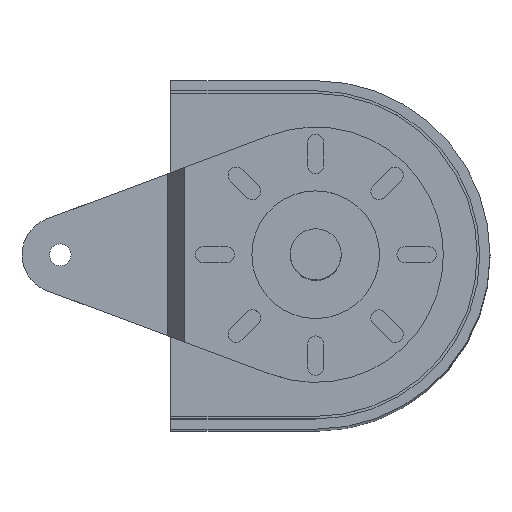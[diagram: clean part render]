
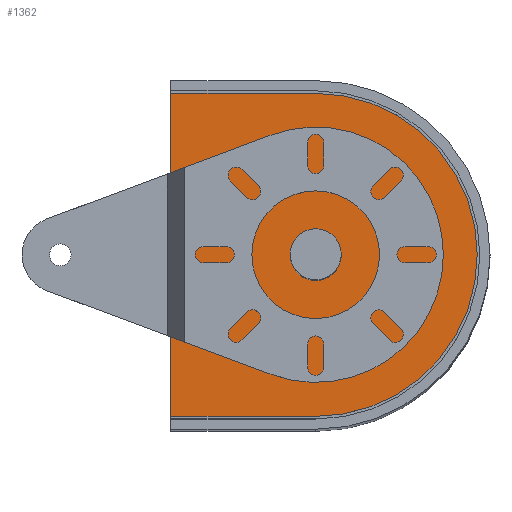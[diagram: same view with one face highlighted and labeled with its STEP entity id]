
A CAD part, top view. The second image highlights one B-rep face of the part: STEP entity #1362.
In plain terms, the highlighted planar face has unit normal (0, 0, 1).
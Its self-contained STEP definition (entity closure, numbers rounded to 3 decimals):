
#83 = EDGE_LOOP ( 'NONE', ( #1802, #2038, #1165, #2528 ) ) ;
#89 = VERTEX_POINT ( 'NONE', #2031 ) ;
#168 = AXIS2_PLACEMENT_3D ( 'NONE', #1268, #1217, #1875 ) ;
#180 = DIRECTION ( 'NONE',  ( -1., 0., 0. ) ) ;
#264 = DIRECTION ( 'NONE',  ( 0., 0., 1. ) ) ;
#265 = AXIS2_PLACEMENT_3D ( 'NONE', #331, #338, #1329 ) ;
#331 = CARTESIAN_POINT ( 'NONE',  ( -68.25, 0., 249.5 ) ) ;
#338 = DIRECTION ( 'NONE',  ( 0., 0., 1. ) ) ;
#349 = VERTEX_POINT ( 'NONE', #480 ) ;
#353 = VECTOR ( 'NONE', #180, 1000. ) ;
#467 = PLANE ( 'NONE',  #513 ) ;
#480 = CARTESIAN_POINT ( 'NONE',  ( -125., -63.25, 249.5 ) ) ;
#513 = AXIS2_PLACEMENT_3D ( 'NONE', #876, #264, #2085 ) ;
#517 = CARTESIAN_POINT ( 'NONE',  ( -68.25, 0., 249.5 ) ) ;
#614 = CARTESIAN_POINT ( 'NONE',  ( -125., 63.25, 249.5 ) ) ;
#626 = VECTOR ( 'NONE', #1057, 1000. ) ;
#687 = CIRCLE ( 'NONE', #265, 10. ) ;
#690 = DIRECTION ( 'NONE',  ( 0., 0., 1. ) ) ;
#695 = LINE ( 'NONE', #614, #626 ) ;
#701 = AXIS2_PLACEMENT_3D ( 'NONE', #517, #690, #719 ) ;
#719 = DIRECTION ( 'NONE',  ( 1., 0., 0. ) ) ;
#876 = CARTESIAN_POINT ( 'NONE',  ( -68.25, 0., 249.5 ) ) ;
#996 = EDGE_CURVE ( 'NONE', #349, #2124, #2348, .T. ) ;
#1057 = DIRECTION ( 'NONE',  ( 0., -1., 0. ) ) ;
#1165 = ORIENTED_EDGE ( 'NONE', *, *, #996, .T. ) ;
#1217 = DIRECTION ( 'NONE',  ( 0., 0., 1. ) ) ;
#1231 = CIRCLE ( 'NONE', #168, 63.25 ) ;
#1268 = CARTESIAN_POINT ( 'NONE',  ( -68.25, 0., 249.5 ) ) ;
#1329 = DIRECTION ( 'NONE',  ( 1., 0., 0. ) ) ;
#1362 = ADVANCED_FACE ( 'NONE', ( #1644, #1780 ), #467, .T. ) ;
#1421 = LINE ( 'NONE', #2226, #353 ) ;
#1457 = VECTOR ( 'NONE', #2365, 1000. ) ;
#1537 = EDGE_CURVE ( 'NONE', #89, #2067, #2273, .T. ) ;
#1644 = FACE_OUTER_BOUND ( 'NONE', #83, .T. ) ;
#1720 = CARTESIAN_POINT ( 'NONE',  ( -68.25, 63.25, 249.5 ) ) ;
#1780 = FACE_BOUND ( 'NONE', #2270, .T. ) ;
#1785 = CARTESIAN_POINT ( 'NONE',  ( -68.25, -63.25, 249.5 ) ) ;
#1802 = ORIENTED_EDGE ( 'NONE', *, *, #1808, .T. ) ;
#1808 = EDGE_CURVE ( 'NONE', #2001, #2033, #1421, .T. ) ;
#1841 = EDGE_CURVE ( 'NONE', #2033, #349, #695, .T. ) ;
#1870 = EDGE_CURVE ( 'NONE', #2124, #2001, #1231, .T. ) ;
#1875 = DIRECTION ( 'NONE',  ( 1., 0., 0. ) ) ;
#1911 = CARTESIAN_POINT ( 'NONE',  ( -58.25, 0., 249.5 ) ) ;
#1942 = CARTESIAN_POINT ( 'NONE',  ( -125., 63.25, 249.5 ) ) ;
#1961 = CARTESIAN_POINT ( 'NONE',  ( -125., -63.25, 249.5 ) ) ;
#2001 = VERTEX_POINT ( 'NONE', #1720 ) ;
#2031 = CARTESIAN_POINT ( 'NONE',  ( -78.25, 0., 249.5 ) ) ;
#2033 = VERTEX_POINT ( 'NONE', #1942 ) ;
#2038 = ORIENTED_EDGE ( 'NONE', *, *, #1841, .T. ) ;
#2067 = VERTEX_POINT ( 'NONE', #1911 ) ;
#2085 = DIRECTION ( 'NONE',  ( 1., 0., 0. ) ) ;
#2124 = VERTEX_POINT ( 'NONE', #1785 ) ;
#2226 = CARTESIAN_POINT ( 'NONE',  ( -68.25, 63.25, 249.5 ) ) ;
#2270 = EDGE_LOOP ( 'NONE', ( #2423, #2370 ) ) ;
#2273 = CIRCLE ( 'NONE', #701, 10. ) ;
#2348 = LINE ( 'NONE', #1961, #1457 ) ;
#2365 = DIRECTION ( 'NONE',  ( 1., 0., 0. ) ) ;
#2370 = ORIENTED_EDGE ( 'NONE', *, *, #2586, .F. ) ;
#2423 = ORIENTED_EDGE ( 'NONE', *, *, #1537, .F. ) ;
#2528 = ORIENTED_EDGE ( 'NONE', *, *, #1870, .T. ) ;
#2586 = EDGE_CURVE ( 'NONE', #2067, #89, #687, .T. ) ;
